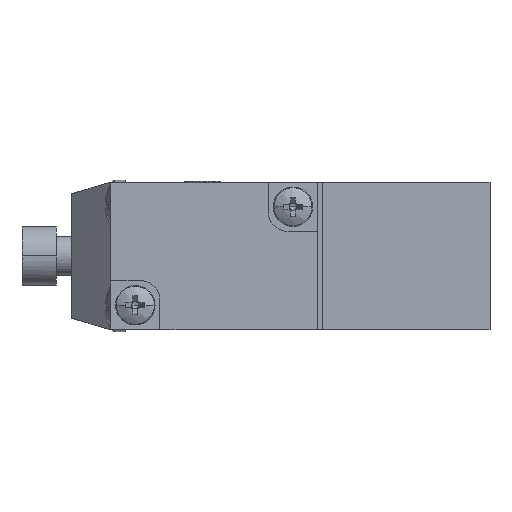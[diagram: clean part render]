
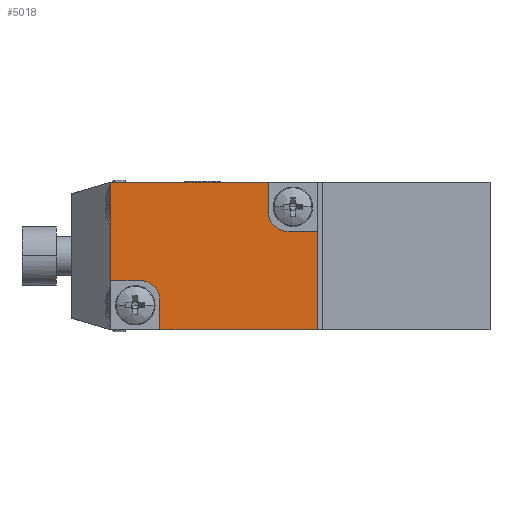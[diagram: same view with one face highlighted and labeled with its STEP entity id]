
A CAD part, left-side view. The second image highlights one B-rep face of the part: STEP entity #5018.
In plain terms, the highlighted planar face has unit normal (-1, 0, 0).
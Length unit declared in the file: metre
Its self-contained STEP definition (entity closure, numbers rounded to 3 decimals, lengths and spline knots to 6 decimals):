
#28 = DIRECTION ( 'NONE',  ( 0., 0., -1. ) ) ;
#152 = VERTEX_POINT ( 'NONE', #10921 ) ;
#399 = CARTESIAN_POINT ( 'NONE',  ( -0.009, 0., -0.0075 ) ) ;
#476 = DIRECTION ( 'NONE',  ( -1., 0., 0. ) ) ;
#656 = ORIENTED_EDGE ( 'NONE', *, *, #4732, .F. ) ;
#854 = VERTEX_POINT ( 'NONE', #399 ) ;
#887 = LINE ( 'NONE', #1318, #6320 ) ;
#1318 = CARTESIAN_POINT ( 'NONE',  ( -0.009, 0., 0. ) ) ;
#1329 = DIRECTION ( 'NONE',  ( 0., 0., 1. ) ) ;
#1384 = ORIENTED_EDGE ( 'NONE', *, *, #4048, .T. ) ;
#1548 = ORIENTED_EDGE ( 'NONE', *, *, #10607, .T. ) ;
#1692 = VECTOR ( 'NONE', #28, 1. ) ;
#1901 = VECTOR ( 'NONE', #11756, 1. ) ;
#1987 = CARTESIAN_POINT ( 'NONE',  ( -0.009, 0.0015, 0.0025 ) ) ;
#2110 = VECTOR ( 'NONE', #9666, 1. ) ;
#2122 = VERTEX_POINT ( 'NONE', #12388 ) ;
#2291 = ORIENTED_EDGE ( 'NONE', *, *, #6835, .F. ) ;
#2343 = VERTEX_POINT ( 'NONE', #6203 ) ;
#2360 = CARTESIAN_POINT ( 'NONE',  ( -0.009, 0., 0.0025 ) ) ;
#2696 = EDGE_CURVE ( 'NONE', #4129, #4459, #4971, .T. ) ;
#2957 = EDGE_CURVE ( 'NONE', #152, #2122, #7454, .T. ) ;
#3315 = EDGE_CURVE ( 'NONE', #854, #8063, #8968, .T. ) ;
#4048 = EDGE_CURVE ( 'NONE', #854, #4129, #887, .T. ) ;
#4114 = CARTESIAN_POINT ( 'NONE',  ( -0.009, 0.018, -0.0025 ) ) ;
#4129 = VERTEX_POINT ( 'NONE', #2360 ) ;
#4195 = VECTOR ( 'NONE', #5547, 1. ) ;
#4231 = ORIENTED_EDGE ( 'NONE', *, *, #2696, .T. ) ;
#4280 = FACE_OUTER_BOUND ( 'NONE', #5178, .T. ) ;
#4431 = VERTEX_POINT ( 'NONE', #6119 ) ;
#4459 = VERTEX_POINT ( 'NONE', #7030 ) ;
#4732 = EDGE_CURVE ( 'NONE', #8063, #4431, #9963, .T. ) ;
#4831 = AXIS2_PLACEMENT_3D ( 'NONE', #6247, #476, #7264 ) ;
#4833 = ORIENTED_EDGE ( 'NONE', *, *, #10156, .F. ) ;
#4971 = LINE ( 'NONE', #1987, #2110 ) ;
#5005 = CIRCLE ( 'NONE', #5850, 0.002 ) ;
#5018 = ADVANCED_FACE ( 'NONE', ( #4280 ), #7949, .F. ) ;
#5060 = CARTESIAN_POINT ( 'NONE',  ( -0.009, 0.018, -0.0045 ) ) ;
#5178 = EDGE_LOOP ( 'NONE', ( #4231, #2291, #8233, #6564, #1548, #7338, #4833, #656, #5604, #1384 ) ) ;
#5547 = DIRECTION ( 'NONE',  ( 0., 1., 0. ) ) ;
#5586 = CARTESIAN_POINT ( 'NONE',  ( -0.009, 0.0105, 0.0075 ) ) ;
#5604 = ORIENTED_EDGE ( 'NONE', *, *, #3315, .F. ) ;
#5613 = DIRECTION ( 'NONE',  ( 0., 0., 1. ) ) ;
#5775 = CARTESIAN_POINT ( 'NONE',  ( -0.009, 0.021, 0. ) ) ;
#5850 = AXIS2_PLACEMENT_3D ( 'NONE', #5060, #11908, #6035 ) ;
#5912 = LINE ( 'NONE', #5775, #1692 ) ;
#6035 = DIRECTION ( 'NONE',  ( 0., 0., -1. ) ) ;
#6119 = CARTESIAN_POINT ( 'NONE',  ( -0.009, 0.016, -0.0045 ) ) ;
#6203 = CARTESIAN_POINT ( 'NONE',  ( -0.009, 0.021, -0.0025 ) ) ;
#6247 = CARTESIAN_POINT ( 'NONE',  ( -0.009, 0.003, 0.0045 ) ) ;
#6320 = VECTOR ( 'NONE', #1329, 1. ) ;
#6564 = ORIENTED_EDGE ( 'NONE', *, *, #2957, .T. ) ;
#6589 = CARTESIAN_POINT ( 'NONE',  ( -0.009, 0.005, 0.006 ) ) ;
#6835 = EDGE_CURVE ( 'NONE', #7261, #4459, #8545, .T. ) ;
#7030 = CARTESIAN_POINT ( 'NONE',  ( -0.009, 0.003, 0.0025 ) ) ;
#7261 = VERTEX_POINT ( 'NONE', #9118 ) ;
#7264 = DIRECTION ( 'NONE',  ( 0., 0., -1. ) ) ;
#7338 = ORIENTED_EDGE ( 'NONE', *, *, #12403, .F. ) ;
#7454 = LINE ( 'NONE', #5586, #4195 ) ;
#7537 = LINE ( 'NONE', #6589, #9796 ) ;
#7673 = LINE ( 'NONE', #12311, #12554 ) ;
#7739 = CARTESIAN_POINT ( 'NONE',  ( -0.009, 0.016, -0.0075 ) ) ;
#7949 = PLANE ( 'NONE',  #11138 ) ;
#8063 = VERTEX_POINT ( 'NONE', #7739 ) ;
#8233 = ORIENTED_EDGE ( 'NONE', *, *, #11575, .T. ) ;
#8238 = CARTESIAN_POINT ( 'NONE',  ( -0.009, 0., 0.0075 ) ) ;
#8312 = DIRECTION ( 'NONE',  ( 1., 0., 0. ) ) ;
#8392 = DIRECTION ( 'NONE',  ( 0., 0., -1. ) ) ;
#8545 = CIRCLE ( 'NONE', #4831, 0.002 ) ;
#8968 = LINE ( 'NONE', #9479, #9257 ) ;
#9118 = CARTESIAN_POINT ( 'NONE',  ( -0.009, 0.005, 0.0045 ) ) ;
#9257 = VECTOR ( 'NONE', #9497, 1. ) ;
#9364 = DIRECTION ( 'NONE',  ( 0., 1., 0. ) ) ;
#9479 = CARTESIAN_POINT ( 'NONE',  ( -0.009, 0.0105, -0.0075 ) ) ;
#9497 = DIRECTION ( 'NONE',  ( 0., 1., 0. ) ) ;
#9666 = DIRECTION ( 'NONE',  ( 0., 1., 0. ) ) ;
#9796 = VECTOR ( 'NONE', #5613, 1. ) ;
#9963 = LINE ( 'NONE', #11349, #1901 ) ;
#10156 = EDGE_CURVE ( 'NONE', #4431, #10188, #5005, .T. ) ;
#10188 = VERTEX_POINT ( 'NONE', #4114 ) ;
#10607 = EDGE_CURVE ( 'NONE', #2122, #2343, #5912, .T. ) ;
#10921 = CARTESIAN_POINT ( 'NONE',  ( -0.009, 0.005, 0.0075 ) ) ;
#11138 = AXIS2_PLACEMENT_3D ( 'NONE', #8238, #8312, #8392 ) ;
#11349 = CARTESIAN_POINT ( 'NONE',  ( -0.009, 0.016, 0. ) ) ;
#11575 = EDGE_CURVE ( 'NONE', #7261, #152, #7537, .T. ) ;
#11756 = DIRECTION ( 'NONE',  ( 0., 0., 1. ) ) ;
#11908 = DIRECTION ( 'NONE',  ( -1., 0., 0. ) ) ;
#12311 = CARTESIAN_POINT ( 'NONE',  ( -0.009, 0.0105, -0.0025 ) ) ;
#12388 = CARTESIAN_POINT ( 'NONE',  ( -0.009, 0.021, 0.0075 ) ) ;
#12403 = EDGE_CURVE ( 'NONE', #10188, #2343, #7673, .T. ) ;
#12554 = VECTOR ( 'NONE', #9364, 1. ) ;
